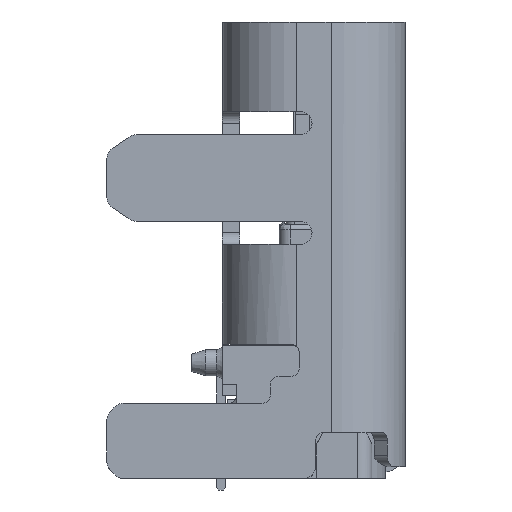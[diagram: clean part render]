
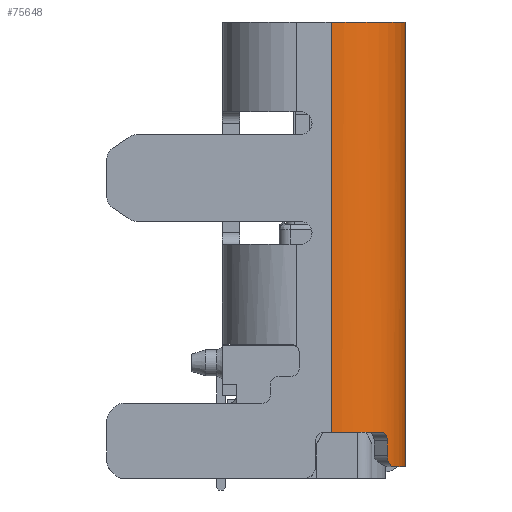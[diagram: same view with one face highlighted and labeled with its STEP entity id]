
A CAD part, left-side view. The second image highlights one B-rep face of the part: STEP entity #75648.
In plain terms, the highlighted cylindrical face has radius 1.28 mm (diameter 2.56 mm), a partial arc.
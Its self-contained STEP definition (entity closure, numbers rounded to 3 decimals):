
#984 = EDGE_CURVE ( 'NONE', #94272, #54110, #87971, .T. ) ;
#1167 = DIRECTION ( 'NONE',  ( 0., 0., -1. ) ) ;
#1687 = CARTESIAN_POINT ( 'NONE',  ( -2.287, -0.324, 12.776 ) ) ;
#2503 = VERTEX_POINT ( 'NONE', #47272 ) ;
#2532 = CARTESIAN_POINT ( 'NONE',  ( -2.224, -0.381, 12.64 ) ) ;
#2590 = ORIENTED_EDGE ( 'NONE', *, *, #984, .T. ) ;
#2713 = CARTESIAN_POINT ( 'NONE',  ( -2.224, -0.381, 12.39 ) ) ;
#3131 = DIRECTION ( 'NONE',  ( 0., 0., 1. ) ) ;
#3827 = ORIENTED_EDGE ( 'NONE', *, *, #10384, .F. ) ;
#4308 = CARTESIAN_POINT ( 'NONE',  ( -2.062, -0.499, 12.19 ) ) ;
#5583 = DIRECTION ( 'NONE',  ( 0., 0., -1. ) ) ;
#7455 = AXIS2_PLACEMENT_3D ( 'NONE', #49937, #93481, #56746 ) ;
#10384 = EDGE_CURVE ( 'NONE', #37880, #2503, #58961, .T. ) ;
#11632 = ORIENTED_EDGE ( 'NONE', *, *, #53339, .T. ) ;
#11758 = CARTESIAN_POINT ( 'NONE',  ( -2.224, -0.381, 12.79 ) ) ;
#11995 = DIRECTION ( 'NONE',  ( 0., 0., 1. ) ) ;
#12033 = CARTESIAN_POINT ( 'NONE',  ( -2.224, -0.381, 12.39 ) ) ;
#13351 = AXIS2_PLACEMENT_3D ( 'NONE', #70480, #11995, #33597 ) ;
#13919 = EDGE_CURVE ( 'NONE', #54110, #21706, #17770, .T. ) ;
#14370 = CARTESIAN_POINT ( 'NONE',  ( -2.674, 0.594, 19.89 ) ) ;
#15249 = CARTESIAN_POINT ( 'NONE',  ( -2.309, -0.301, 12.787 ) ) ;
#16514 = CARTESIAN_POINT ( 'NONE',  ( -2.224, -0.381, 12.64 ) ) ;
#17770 = LINE ( 'NONE', #11758, #92812 ) ;
#20124 = ORIENTED_EDGE ( 'NONE', *, *, #31330, .F. ) ;
#20215 = ORIENTED_EDGE ( 'NONE', *, *, #76567, .T. ) ;
#20411 = DIRECTION ( 'NONE',  ( 0., 0., -1. ) ) ;
#21706 = VERTEX_POINT ( 'NONE', #2713 ) ;
#23636 = CARTESIAN_POINT ( 'NONE',  ( -2.333, -0.277, 12.79 ) ) ;
#23852 = VERTEX_POINT ( 'NONE', #88527 ) ;
#24519 = AXIS2_PLACEMENT_3D ( 'NONE', #47380, #3131, #54787 ) ;
#26168 = ORIENTED_EDGE ( 'NONE', *, *, #13919, .T. ) ;
#26772 = VECTOR ( 'NONE', #5583, 1000. ) ;
#26877 = CARTESIAN_POINT ( 'NONE',  ( -2.149, -0.441, 12.211 ) ) ;
#27181 = CARTESIAN_POINT ( 'NONE',  ( -2.107, -0.471, 12.19 ) ) ;
#28134 = EDGE_LOOP ( 'NONE', ( #38311, #2590, #26168, #68420, #20215, #3827, #20124, #11632 ) ) ;
#30104 = CARTESIAN_POINT ( 'NONE',  ( -2.321, -0.289, 12.79 ) ) ;
#31075 = CARTESIAN_POINT ( 'NONE',  ( -2.242, -0.366, 12.72 ) ) ;
#31330 = EDGE_CURVE ( 'NONE', #94725, #37880, #73256, .T. ) ;
#33597 = DIRECTION ( 'NONE',  ( 0., -1., 0. ) ) ;
#37194 = CARTESIAN_POINT ( 'NONE',  ( -2.298, -0.313, 12.782 ) ) ;
#37509 = CARTESIAN_POINT ( 'NONE',  ( -2.23, -0.376, 12.69 ) ) ;
#37880 = VERTEX_POINT ( 'NONE', #88465 ) ;
#38311 = ORIENTED_EDGE ( 'NONE', *, *, #40428, .T. ) ;
#39581 = CARTESIAN_POINT ( 'NONE',  ( -2.333, -0.277, 12.79 ) ) ;
#40428 = EDGE_CURVE ( 'NONE', #49905, #94272, #50608, .T. ) ;
#45563 = CARTESIAN_POINT ( 'NONE',  ( -2.257, -0.352, 12.747 ) ) ;
#46431 = LINE ( 'NONE', #94305, #26772 ) ;
#47272 = CARTESIAN_POINT ( 'NONE',  ( -1.394, -0.686, 12.19 ) ) ;
#47358 = EDGE_CURVE ( 'NONE', #21706, #23852, #80221, .T. ) ;
#47380 = CARTESIAN_POINT ( 'NONE',  ( -1.394, 0.594, 12.19 ) ) ;
#48521 = CARTESIAN_POINT ( 'NONE',  ( -2.208, -0.395, 12.285 ) ) ;
#49905 = VERTEX_POINT ( 'NONE', #68625 ) ;
#49937 = CARTESIAN_POINT ( 'NONE',  ( -1.394, 0.594, 12.79 ) ) ;
#50061 = CIRCLE ( 'NONE', #24519, 1.28 ) ;
#50608 = CIRCLE ( 'NONE', #7455, 1.28 ) ;
#52699 = CARTESIAN_POINT ( 'NONE',  ( -2.248, -0.36, 12.734 ) ) ;
#53339 = EDGE_CURVE ( 'NONE', #94725, #49905, #46431, .T. ) ;
#54110 = VERTEX_POINT ( 'NONE', #2532 ) ;
#54787 = DIRECTION ( 'NONE',  ( 0., 1., 0. ) ) ;
#56746 = DIRECTION ( 'NONE',  ( 0., 1., 0. ) ) ;
#58570 = CARTESIAN_POINT ( 'NONE',  ( -1.394, 0.594, 19.89 ) ) ;
#58961 = LINE ( 'NONE', #89570, #91210 ) ;
#59845 = CARTESIAN_POINT ( 'NONE',  ( -2.276, -0.334, 12.768 ) ) ;
#65959 = DIRECTION ( 'NONE',  ( 0., -1., 0. ) ) ;
#67260 = CARTESIAN_POINT ( 'NONE',  ( -2.225, -0.38, 12.663 ) ) ;
#67584 = CARTESIAN_POINT ( 'NONE',  ( -2.266, -0.343, 12.757 ) ) ;
#68217 = CARTESIAN_POINT ( 'NONE',  ( -2.224, -0.381, 12.651 ) ) ;
#68420 = ORIENTED_EDGE ( 'NONE', *, *, #47358, .T. ) ;
#68625 = CARTESIAN_POINT ( 'NONE',  ( -2.674, 0.594, 12.79 ) ) ;
#70480 = CARTESIAN_POINT ( 'NONE',  ( -1.394, 0.594, 19.89 ) ) ;
#73256 = CIRCLE ( 'NONE', #13351, 1.28 ) ;
#75483 = CYLINDRICAL_SURFACE ( 'NONE', #79576, 1.28 ) ;
#75648 = ADVANCED_FACE ( 'NONE', ( #90415 ), #75483, .T. ) ;
#76567 = EDGE_CURVE ( 'NONE', #23852, #2503, #50061, .T. ) ;
#78322 = DIRECTION ( 'NONE',  ( 0., 0., -1. ) ) ;
#79576 = AXIS2_PLACEMENT_3D ( 'NONE', #58570, #20411, #65959 ) ;
#80221 = B_SPLINE_CURVE_WITH_KNOTS ( 'NONE', 3,
 ( #12033, #85645, #48521, #26877, #27181, #4308 ),
 .UNSPECIFIED., .F., .F.,
 ( 4, 2, 4 ),
 ( 0., 0., 0. ),
 .UNSPECIFIED. ) ;
#81773 = CARTESIAN_POINT ( 'NONE',  ( -2.235, -0.372, 12.706 ) ) ;
#85645 = CARTESIAN_POINT ( 'NONE',  ( -2.224, -0.381, 12.337 ) ) ;
#87971 = B_SPLINE_CURVE_WITH_KNOTS ( 'NONE', 3,
 ( #23636, #30104, #15249, #37194, #1687, #59845, #67584, #45563, #52699, #31075, #81773, #37509, #89152, #67260, #68217, #16514 ),
 .UNSPECIFIED., .F., .F.,
 ( 4, 3, 3, 3, 3, 4 ),
 ( 0., 0., 0., 0., 0., 0. ),
 .UNSPECIFIED. ) ;
#88465 = CARTESIAN_POINT ( 'NONE',  ( -1.394, -0.686, 19.89 ) ) ;
#88527 = CARTESIAN_POINT ( 'NONE',  ( -2.062, -0.499, 12.19 ) ) ;
#89152 = CARTESIAN_POINT ( 'NONE',  ( -2.227, -0.378, 12.674 ) ) ;
#89570 = CARTESIAN_POINT ( 'NONE',  ( -1.394, -0.686, 19.89 ) ) ;
#90415 = FACE_OUTER_BOUND ( 'NONE', #28134, .T. ) ;
#91210 = VECTOR ( 'NONE', #1167, 1000. ) ;
#92812 = VECTOR ( 'NONE', #78322, 1000. ) ;
#93481 = DIRECTION ( 'NONE',  ( 0., 0., 1. ) ) ;
#94272 = VERTEX_POINT ( 'NONE', #39581 ) ;
#94305 = CARTESIAN_POINT ( 'NONE',  ( -2.674, 0.594, 19.89 ) ) ;
#94725 = VERTEX_POINT ( 'NONE', #14370 ) ;
